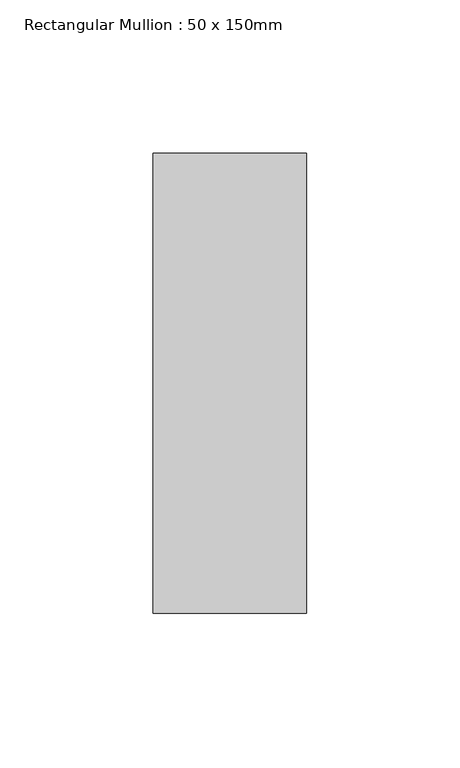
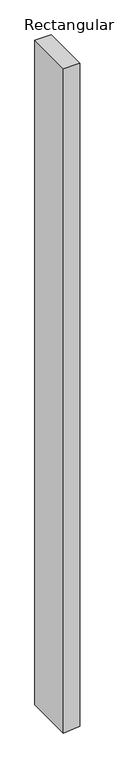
"""IFC4 building model written with IfcOpenShell, lengths in millimetres: member geometry, Rectangular Mullion : 50 x 150mm."""

from ifc_helpers import new_model, si_unit, frame, origin, place, context, project, spatial, polyline, outline, extrude, source, transform, mapped, element, save


def rectangular_mullion_50_x_150mm_1487ad2d(model_context):
    return source(origin(), model_context, "Body", "SweptSolid", [
        extrude(outline(polyline([(0.0, 25.0), (0.0, -25.0), (-2129.3558118, -25.0), (-2127.3450447, -5.0022633), (-2124.3283251, 25.0), (0.0, 25.0)])), frame((0.0, -75.0, 0.0), z_axis=(0.0, 1.0, 0.0), x_axis=(0.0, 0.0, 1.0)), (0.0, 0.0, 1.0), 150.0),
    ])


if __name__ == "__main__":
    model = new_model("IFC4")
    model_context = context("Model", 3, world=origin())
    ifc_project = project(units=[si_unit("LENGTHUNIT", "METRE", prefix="MILLI")], contexts=[model_context])
    site = spatial("IfcSite", under=ifc_project)
    building = spatial("IfcBuilding", under=site)
    placement = place(None, origin())
    rectangular_mullion_50_x_150mm_shape = rectangular_mullion_50_x_150mm_1487ad2d(model_context)
    element("IfcMember", 1, ObjectType="Rectangular Mullion : 50 x 150mm", at=placement, inside=building, context=model_context, shape_type="MappedRepresentation", body=[
        mapped(rectangular_mullion_50_x_150mm_shape, transform((0.0, 0.0, 0.0), x_axis=(1.0, 0.0, 0.0), y_axis=(0.0, 1.0, 0.0), z_axis=(0.0, 0.0, 1.0))),
    ])
    save(model, "model.ifc")
